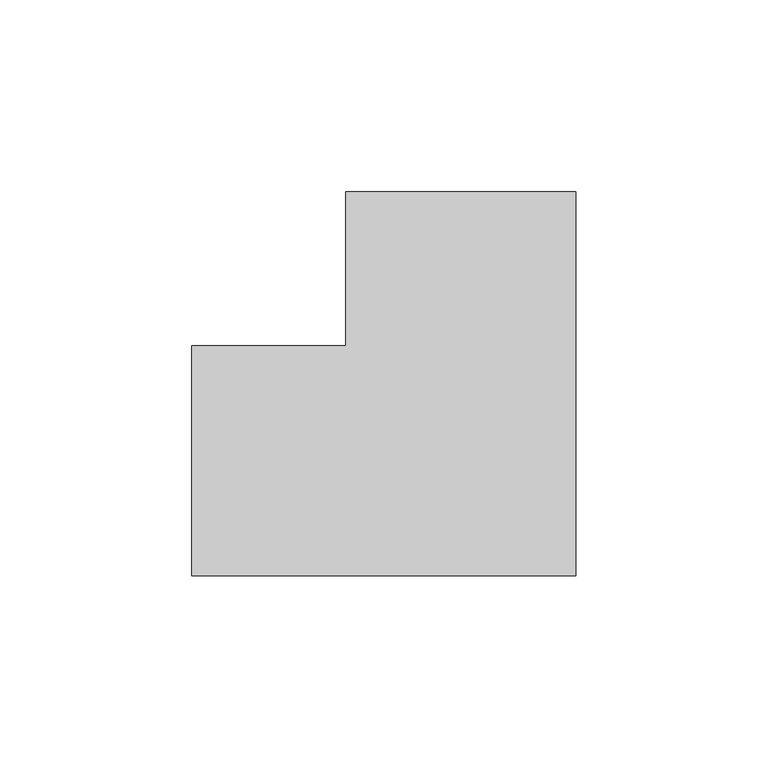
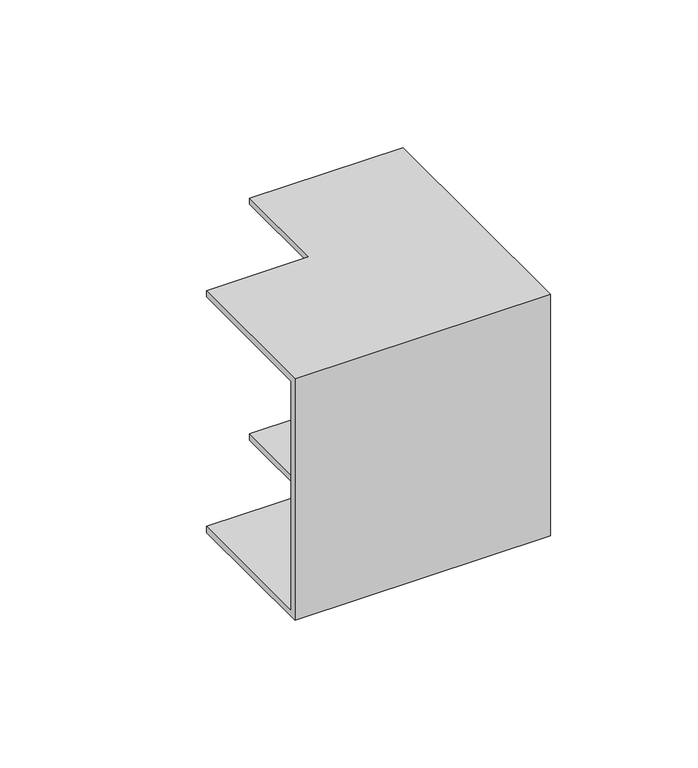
"""IFC4 building model written with IfcOpenShell, lengths in millimetres: cable carrier fitting geometry, КНС_УголВнутренний_ILC_DKC : Угол внутренний_DKC."""

from ifc_helpers import new_model, si_unit, origin, place, context, project, spatial, faceted_brep, source, transform, mapped, element, save


def cable_carrier_fitting_d44bfa05(model_context):
    return source(origin(), model_context, "Body", "Brep", [
        faceted_brep([(-70.0, -30.0, 50.0), (-70.0, 30.0, 50.0), (-70.0, 30.0, 47.5), (-70.0, -27.5, 47.5), (-70.0, -27.5, -47.5), (-70.0, 30.0, -47.5), (-70.0, 30.0, -50.0), (-70.0, -30.0, -50.0), (30.0, 70.0, 50.0), (30.0, 70.0, -50.0), (-30.0, 70.0, -50.0), (-30.0, 70.0, -47.5), (27.5, 70.0, -47.5), (27.5, 70.0, 47.5), (-30.0, 70.0, 47.5), (-30.0, 70.0, 50.0), (30.0, -30.0, 50.0), (-30.0, 30.0, 50.0), (-30.0, 30.0, 47.5), (27.5, -27.5, 47.5), (27.5, -27.5, -47.5), (-30.0, 30.0, -47.5), (-30.0, 30.0, -50.0), (30.0, -30.0, -50.0)], [[[0, 1, 2, 3, 4, 5, 6, 7]], [[8, 9, 10, 11, 12, 13, 14, 15]], [[1, 0, 16, 8, 15, 17]], [[2, 1, 17, 18]], [[3, 2, 18, 14, 13, 19]], [[4, 3, 19, 20]], [[5, 4, 20, 12, 11, 21]], [[6, 5, 21, 22]], [[7, 6, 22, 10, 9, 23]], [[0, 7, 23, 16]], [[18, 17, 15, 14]], [[20, 19, 13, 12]], [[22, 21, 11, 10]], [[16, 23, 9, 8]]]),
    ])


if __name__ == "__main__":
    model = new_model("IFC4")
    model_context = context("Model", 3, world=origin())
    ifc_project = project(units=[si_unit("LENGTHUNIT", "METRE", prefix="MILLI")], contexts=[model_context])
    site = spatial("IfcSite", under=ifc_project)
    building = spatial("IfcBuilding", under=site)
    placement = place(None, origin())
    cable_carrier_fitting_shape = cable_carrier_fitting_d44bfa05(model_context)
    element("IfcCableCarrierFitting", 1, ObjectType="КНС_УголВнутренний_ILC_DKC : Угол внутренний_DKC", at=placement, inside=building, context=model_context, shape_type="MappedRepresentation", body=[
        mapped(cable_carrier_fitting_shape, transform((0.0, 0.0, 0.0), x_axis=(1.0, 0.0, 0.0), y_axis=(0.0, 1.0, 0.0), z_axis=(0.0, 0.0, 1.0))),
    ])
    save(model, "model.ifc")
